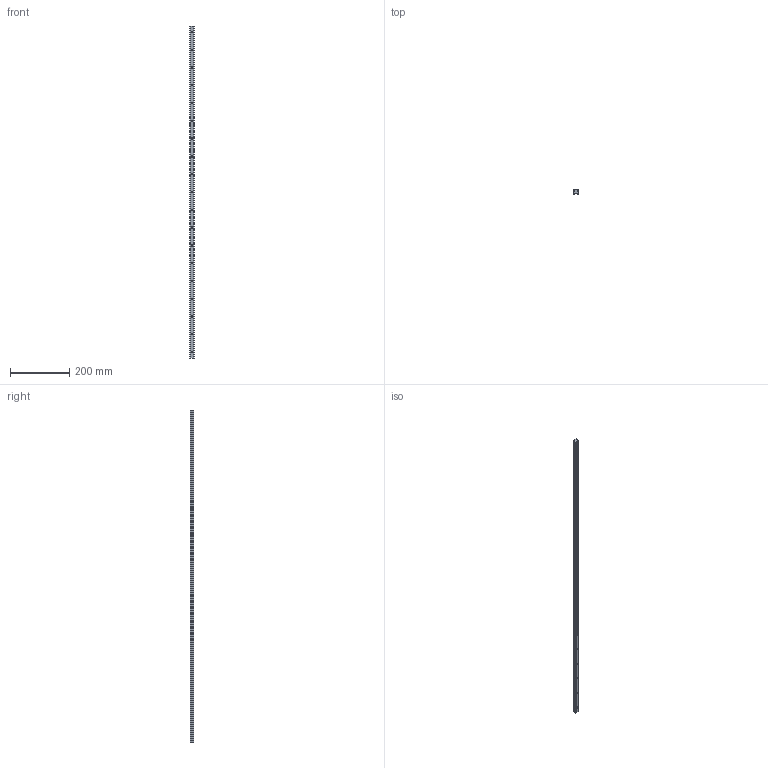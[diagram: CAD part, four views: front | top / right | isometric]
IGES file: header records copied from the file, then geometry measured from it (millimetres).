
Start section: SolidWorks IGES file using analytic representation for surfaces
Global section: file name: C:\Users\IanO\Desktop\L1016_v2\L1016.BL15_v2\L1016.BL15_v2_20190611_IGES\L1016.BL15-1120.igs; native system: SolidWorks 2017; preprocessor: SolidWorks 2017; author: IanO; date: 190612.122744; units: millimetre
Bounding box: 15 x 13 x 1120 mm (x, y, z)
Surface area: 68661.9 mm2 (no closed solid volume)
Topology: 0 solids, 0 shells, 121 faces, 2888 edges, 2888 vertices
Faces by surface type: revolution 80, bspline 41
